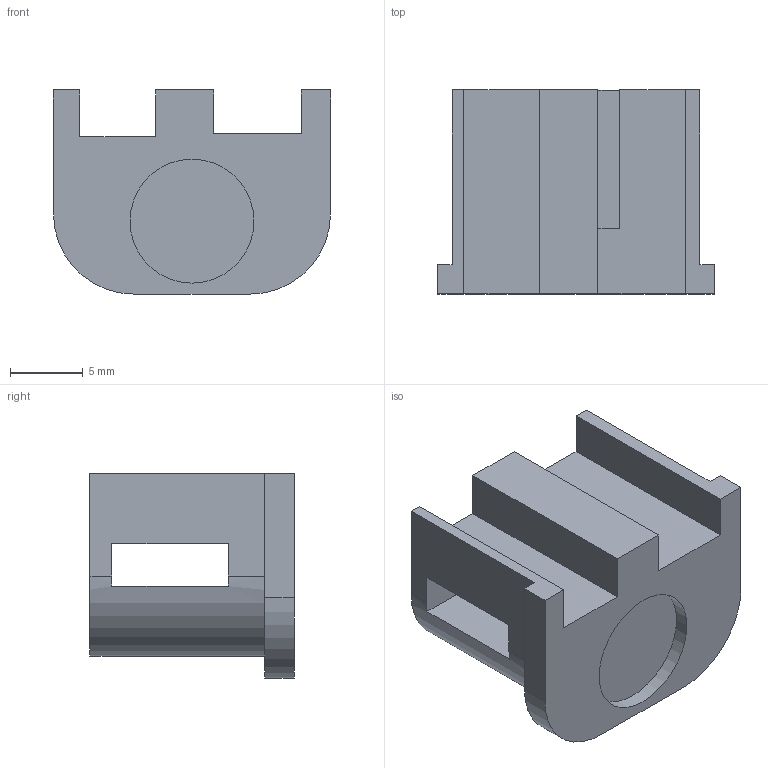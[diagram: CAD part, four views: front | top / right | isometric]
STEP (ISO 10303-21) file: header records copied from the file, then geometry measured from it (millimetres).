
FILE_DESCRIPTION(/* description */ (''),/* implementation_level */ '2;1');
FILE_NAME(/* name */ '/Users/tyler/Desktop/GLOCK SEAR/STEP/SEAR BODY.step',/* time_stamp */ '2020-04-21T22:23:15-04:00',/* author */ (''),/* organization */ (''),/* preprocessor_version */ 'ST-DEVELOPER v18.1',/* originating_system */ 'Autodesk Translation Framework v9.2.0.1227',/* authorisation */ '');
FILE_SCHEMA (('AUTOMOTIVE_DESIGN { 1 0 10303 214 3 1 1 }'));
Length unit declared in the file: millimetre
Products named in the file (1): (Unsaved)
Bounding box: 19 x 14 x 14 mm (x, y, z)
Volume: 1882.2 mm3; surface area: 1811.1 mm2
Topology: 1 solids, 1 shells, 33 faces, 104 edges, 70 vertices
Faces by surface type: plane 28, cylinder 5
Full cylindrical faces by diameter (mm): 8.5 x1
Entity records: 1191 total; most frequent: ORIENTED_EDGE 208, CARTESIAN_POINT 208, DIRECTION 188, EDGE_CURVE 104, LINE 88, VECTOR 88, VERTEX_POINT 70, AXIS2_PLACEMENT_3D 50
